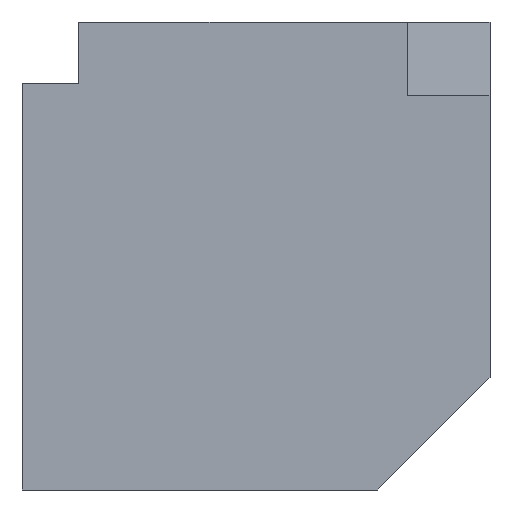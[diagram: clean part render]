
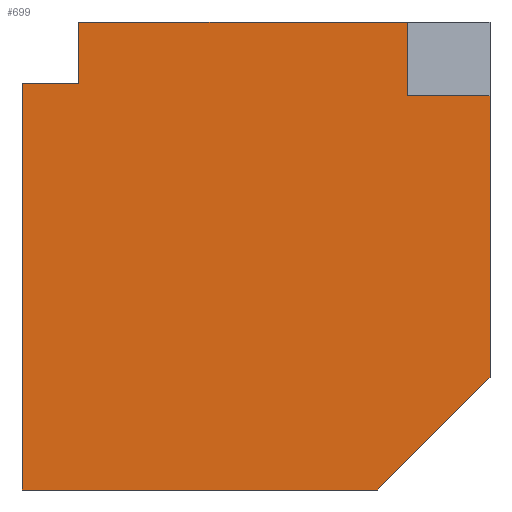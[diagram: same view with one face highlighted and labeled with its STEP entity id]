
A CAD part, left-side view. The second image highlights one B-rep face of the part: STEP entity #699.
In plain terms, the highlighted planar face has unit normal (-1, 0, 0).
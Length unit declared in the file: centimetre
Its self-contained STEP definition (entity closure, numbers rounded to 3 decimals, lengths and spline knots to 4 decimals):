
#3 = CARTESIAN_POINT ( 'NONE',  ( 0., 878.9116, 867.8138 ) ) ;
#7 = CARTESIAN_POINT ( 'NONE',  ( 0., 878.9116, 1000. ) ) ;
#12 = CARTESIAN_POINT ( 'NONE',  ( 0., 1000., 0. ) ) ;
#15 = ORIENTED_EDGE ( 'NONE', *, *, #492, .T. ) ;
#16 = CARTESIAN_POINT ( 'NONE',  ( 0., 1000., 1000. ) ) ;
#37 = VECTOR ( 'NONE', #93, 100. ) ;
#40 = DIRECTION ( 'NONE',  ( 1., 0., 0. ) ) ;
#61 = VERTEX_POINT ( 'NONE', #365 ) ;
#92 = VERTEX_POINT ( 'NONE', #7 ) ;
#93 = DIRECTION ( 'NONE',  ( 0., 0., 1. ) ) ;
#96 = CARTESIAN_POINT ( 'NONE',  ( 0., 1000., 1000. ) ) ;
#115 = DIRECTION ( 'NONE',  ( 0., 0., 1. ) ) ;
#129 = ORIENTED_EDGE ( 'NONE', *, *, #674, .T. ) ;
#139 = VECTOR ( 'NONE', #420, 100. ) ;
#146 = CARTESIAN_POINT ( 'NONE',  ( 0., 0., 240.1227 ) ) ;
#154 = DIRECTION ( 'NONE',  ( 0., 0., -1. ) ) ;
#157 = CARTESIAN_POINT ( 'NONE',  ( 0., 176.2763, 842.3612 ) ) ;
#173 = LINE ( 'NONE', #350, #360 ) ;
#178 = VECTOR ( 'NONE', #580, 100. ) ;
#179 = ORIENTED_EDGE ( 'NONE', *, *, #482, .F. ) ;
#181 = DIRECTION ( 'NONE',  ( 0., -1., 0. ) ) ;
#194 = CARTESIAN_POINT ( 'NONE',  ( 0., 0., 842.3612 ) ) ;
#198 = CARTESIAN_POINT ( 'NONE',  ( 0., 176.2763, 1000. ) ) ;
#200 = EDGE_CURVE ( 'NONE', #61, #552, #403, .T. ) ;
#206 = ORIENTED_EDGE ( 'NONE', *, *, #292, .F. ) ;
#214 = ORIENTED_EDGE ( 'NONE', *, *, #753, .T. ) ;
#216 = LINE ( 'NONE', #96, #550 ) ;
#220 = CARTESIAN_POINT ( 'NONE',  ( 0., 1000., 1000. ) ) ;
#233 = FACE_OUTER_BOUND ( 'NONE', #377, .T. ) ;
#280 = CARTESIAN_POINT ( 'NONE',  ( 0., 1000., 867.8138 ) ) ;
#288 = LINE ( 'NONE', #157, #729 ) ;
#292 = EDGE_CURVE ( 'NONE', #92, #427, #586, .T. ) ;
#305 = CARTESIAN_POINT ( 'NONE',  ( 0., 0., 1000. ) ) ;
#308 = LINE ( 'NONE', #533, #437 ) ;
#325 = CARTESIAN_POINT ( 'NONE',  ( 0., 878.9116, 867.8138 ) ) ;
#336 = EDGE_CURVE ( 'NONE', #475, #509, #466, .T. ) ;
#342 = VERTEX_POINT ( 'NONE', #12 ) ;
#345 = VERTEX_POINT ( 'NONE', #467 ) ;
#350 = CARTESIAN_POINT ( 'NONE',  ( 0., 1000., 0. ) ) ;
#355 = DIRECTION ( 'NONE',  ( 0., -1., 0. ) ) ;
#359 = ORIENTED_EDGE ( 'NONE', *, *, #379, .F. ) ;
#360 = VECTOR ( 'NONE', #355, 100. ) ;
#365 = CARTESIAN_POINT ( 'NONE',  ( 0., 240.1227, 0. ) ) ;
#368 = EDGE_CURVE ( 'NONE', #345, #444, #308, .T. ) ;
#377 = EDGE_LOOP ( 'NONE', ( #616, #129, #206, #179, #534, #214, #15, #538, #359 ) ) ;
#379 = EDGE_CURVE ( 'NONE', #444, #552, #641, .T. ) ;
#403 = LINE ( 'NONE', #776, #748 ) ;
#420 = DIRECTION ( 'NONE',  ( 0., 0., -1. ) ) ;
#427 = VERTEX_POINT ( 'NONE', #198 ) ;
#437 = VECTOR ( 'NONE', #181, 100. ) ;
#444 = VERTEX_POINT ( 'NONE', #194 ) ;
#454 = LINE ( 'NONE', #325, #37 ) ;
#466 = LINE ( 'NONE', #3, #662 ) ;
#467 = CARTESIAN_POINT ( 'NONE',  ( 0., 176.2763, 842.3612 ) ) ;
#475 = VERTEX_POINT ( 'NONE', #280 ) ;
#482 = EDGE_CURVE ( 'NONE', #509, #92, #454, .T. ) ;
#492 = EDGE_CURVE ( 'NONE', #342, #61, #173, .T. ) ;
#509 = VERTEX_POINT ( 'NONE', #524 ) ;
#515 = DIRECTION ( 'NONE',  ( 0., -0.707, 0.707 ) ) ;
#524 = CARTESIAN_POINT ( 'NONE',  ( 0., 878.9116, 867.8138 ) ) ;
#533 = CARTESIAN_POINT ( 'NONE',  ( 0., 0., 842.3612 ) ) ;
#534 = ORIENTED_EDGE ( 'NONE', *, *, #336, .F. ) ;
#538 = ORIENTED_EDGE ( 'NONE', *, *, #200, .T. ) ;
#550 = VECTOR ( 'NONE', #154, 100. ) ;
#552 = VERTEX_POINT ( 'NONE', #146 ) ;
#580 = DIRECTION ( 'NONE',  ( 0., -1., 0. ) ) ;
#586 = LINE ( 'NONE', #16, #178 ) ;
#616 = ORIENTED_EDGE ( 'NONE', *, *, #368, .F. ) ;
#617 = DIRECTION ( 'NONE',  ( 0., 0., -1. ) ) ;
#631 = PLANE ( 'NONE',  #669 ) ;
#641 = LINE ( 'NONE', #305, #139 ) ;
#662 = VECTOR ( 'NONE', #718, 100. ) ;
#669 = AXIS2_PLACEMENT_3D ( 'NONE', #220, #40, #617 ) ;
#674 = EDGE_CURVE ( 'NONE', #345, #427, #288, .T. ) ;
#699 = ADVANCED_FACE ( 'NONE', ( #233 ), #631, .F. ) ;
#718 = DIRECTION ( 'NONE',  ( 0., -1., 0. ) ) ;
#729 = VECTOR ( 'NONE', #115, 100. ) ;
#748 = VECTOR ( 'NONE', #515, 100. ) ;
#753 = EDGE_CURVE ( 'NONE', #475, #342, #216, .T. ) ;
#776 = CARTESIAN_POINT ( 'NONE',  ( 0., 0., 240.1227 ) ) ;
